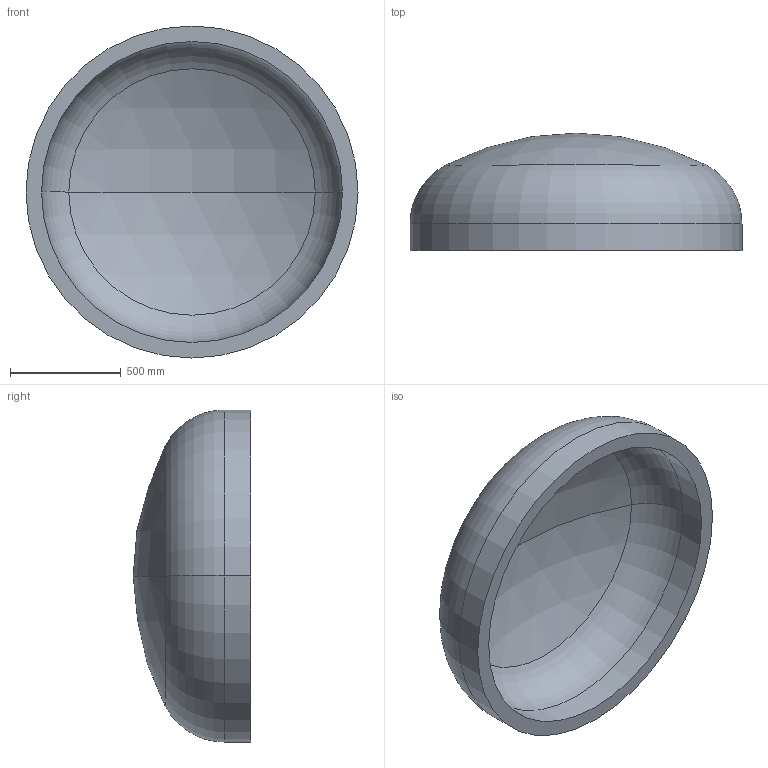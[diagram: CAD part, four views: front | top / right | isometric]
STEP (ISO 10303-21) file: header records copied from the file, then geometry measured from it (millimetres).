
FILE_DESCRIPTION (( 'STEP AP203' ), '1' );
FILE_NAME ('DIN 28013 Korbbogenform_-_Boden DIN 28013 - 1500 x 120 - I - s=70.step', '2016-07-01T10:52:40', ( '' ), ( '' ), 'SwSTEP 2.0', 'SolidWorks 2013', '' );
FILE_SCHEMA (( 'CONFIG_CONTROL_DESIGN' ));
Length unit declared in the file: millimetre
Products named in the file (1): DIN 28013 Korbbogenform_-_Boden DIN 28013 - 1500 x 120 - I - s=70
Bounding box: 1500 x 530.7 x 1500 mm (x, y, z)
Volume: 198918702.3 mm3; surface area: 6008126 mm2
Topology: 1 solids, 1 shells, 13 faces, 24 edges, 14 vertices
Faces by surface type: torus 4, cylinder 4, sphere 4, plane 1
Entity records: 407 total; most frequent: DIRECTION 72, CARTESIAN_POINT 52, ORIENTED_EDGE 48, AXIS2_PLACEMENT_3D 34, EDGE_CURVE 24, CIRCLE 20, VERTEX_POINT 14, EDGE_LOOP 14
